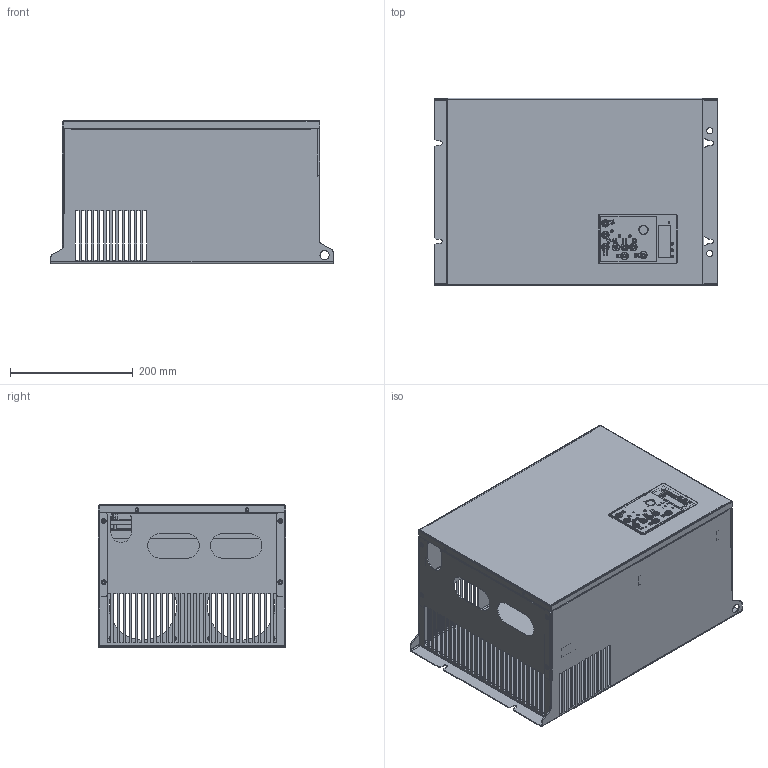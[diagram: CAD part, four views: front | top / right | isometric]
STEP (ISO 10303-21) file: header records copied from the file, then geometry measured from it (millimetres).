
FILE_DESCRIPTION((''),'2;1');
FILE_NAME('HCA-4T45G_ASM','2024-06-17T16:48:29',('HuangFD'),(''),'CREO PARAMETRIC BY PTC INC, 2019010','CREO PARAMETRIC BY PTC INC, 2019010','');
FILE_SCHEMA(('CONFIG_CONTROL_DESIGN','GEOMETRIC_VALIDATION_PROPERTIES_MIM'));
Products named in the file (15): ZHUXIANGTI; HANJIAN-2; HANJIAN-1; ZHUTI_ASM; SHANGGEBAN; FENGSAN-GDJ; CEBAN; CZQ-GUDINGJIA; 4T55G-SIFU-231127; SHANGGAI; 3100-CAOZUOQISHANGKE_1; 3100-CAOZUOQIXIAKE_1; 3100-CAOZUOQI-OLD_ASM; GANGZHU-0410; HCA-4T45G_ASM
Assembly tree (18 placements, depth 3):
  HCA-4T45G_ASM
    ZHUTI_ASM
      ZHUXIANGTI
      HANJIAN-2  x4
      HANJIAN-1  x2
    SHANGGEBAN
    FENGSAN-GDJ
    CEBAN
    CZQ-GUDINGJIA
    4T55G-SIFU-231127
    SHANGGAI
    3100-CAOZUOQI-OLD_ASM
      3100-CAOZUOQISHANGKE_1
      3100-CAOZUOQIXIAKE_1
    GANGZHU-0410
Bounding box: 460 x 305 x 233.7 mm (x, y, z)
Volume: 1028772.3 mm3; surface area: 1509818.5 mm2
Topology: 70 solids, 70 shells, 6535 faces, 17518 edges, 11503 vertices
Faces by surface type: plane 5271, cylinder 1088, cone 96, torus 51, bspline 17, extrusion 12
Entity records: 223999 total; most frequent: CARTESIAN_POINT 37159, ORIENTED_EDGE 34508, DIRECTION 32452, EDGE_CURVE 17254, VECTOR 14516, LINE 14504, VERTEX_POINT 11351, AXIS2_PLACEMENT_3D 8968
